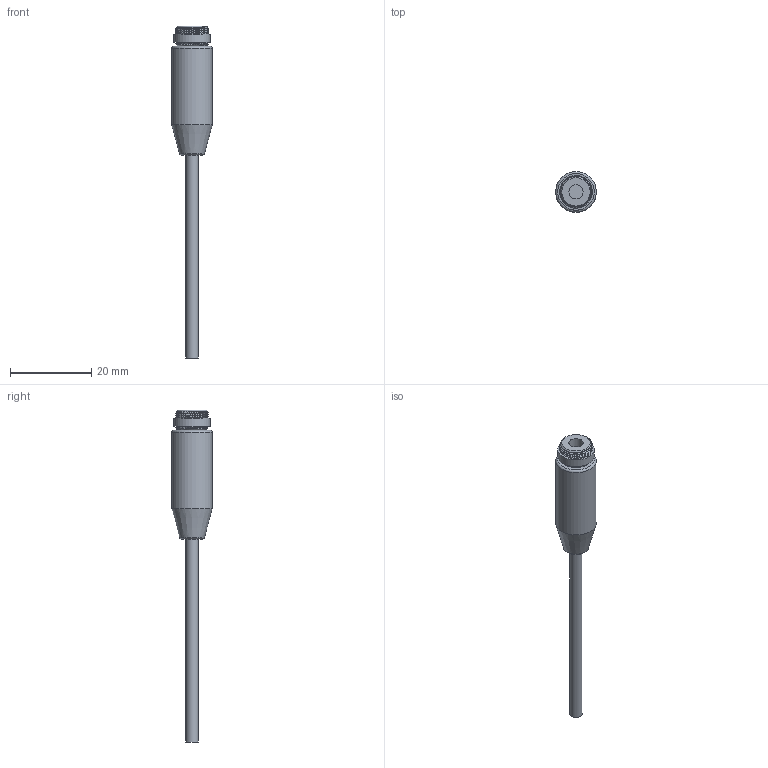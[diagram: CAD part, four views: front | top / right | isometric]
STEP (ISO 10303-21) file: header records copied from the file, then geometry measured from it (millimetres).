
FILE_DESCRIPTION(('FreeCAD Model'),'2;1');
FILE_NAME('Open CASCADE Shape Model','2026-06-11T12:16:25',(''),(''), 'Open CASCADE STEP processor 7.8','FreeCAD','Unknown');
FILE_SCHEMA(('AUTOMOTIVE_DESIGN { 1 0 10303 214 1 1 1 1 }'));
Length unit declared in the file: millimetre
Products named in the file (3): FW_405_35PHJ_FF_20CM_P1; FW-405-35PHJ-FF-20CM_R; FW-405-35PHJ-FF-20CM_1
Assembly tree (2 placements, depth 2):
  FW_405_35PHJ_FF_20CM_P1
    FW-405-35PHJ-FF-20CM_R
    FW-405-35PHJ-FF-20CM_1
Bounding box: 10 x 10 x 81.8 mm (x, y, z)
Volume: 2463.7 mm3; surface area: 1759.1 mm2
Topology: 2 solids, 2 shells, 51 faces, 107 edges, 63 vertices
Faces by surface type: bspline 31, plane 7, cylinder 6, cone 5, torus 2
Full cylindrical faces by diameter (mm): 3 x1, 3.5 x1, 7.8 x1, 9 x1, 10 x1
Entity records: 4527 total; most frequent: CARTESIAN_POINT 3637, ORIENTED_EDGE 214, EDGE_CURVE 107, DIRECTION 97, VERTEX_POINT 63, B_SPLINE_CURVE_WITH_KNOTS 57, FACE_BOUND 56, EDGE_LOOP 56
